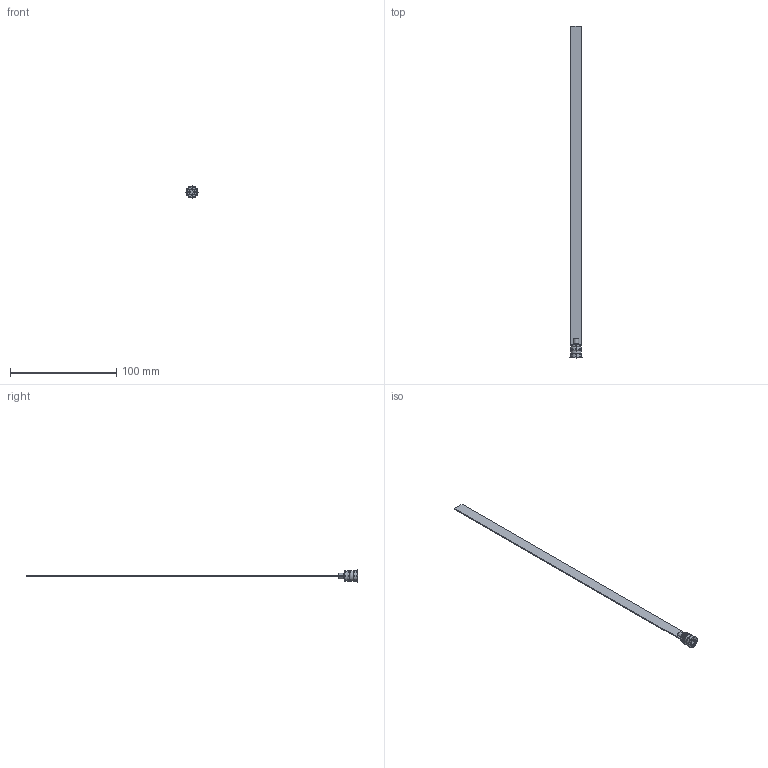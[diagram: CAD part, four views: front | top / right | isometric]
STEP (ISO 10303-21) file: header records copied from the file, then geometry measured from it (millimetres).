
FILE_DESCRIPTION (( 'STEP AP203' ), '1' );
FILE_NAME ('RL-10Fx300.STEP', '2015-12-02T09:55:05', ( 'Balzi' ), ( '' ), 'SwSTEP 2.0', 'SolidWorks 2015', '' );
FILE_SCHEMA (( 'CONFIG_CONTROL_DESIGN' ));
Length unit declared in the file: millimetre
Products named in the file (1): RL-10Fx300
Bounding box: 11.3 x 312.5 x 11.3 mm (x, y, z)
Volume: 3865.5 mm3; surface area: 7381.6 mm2
Topology: 1 solids, 1 shells, 72 faces, 171 edges, 105 vertices
Faces by surface type: plane 30, cylinder 17, cone 17, torus 8
Entity records: 2165 total; most frequent: CARTESIAN_POINT 399, DIRECTION 370, ORIENTED_EDGE 342, EDGE_CURVE 171, AXIS2_PLACEMENT_3D 140, VERTEX_POINT 105, VECTOR 90, LINE 90
